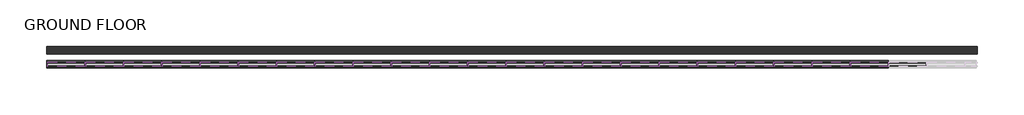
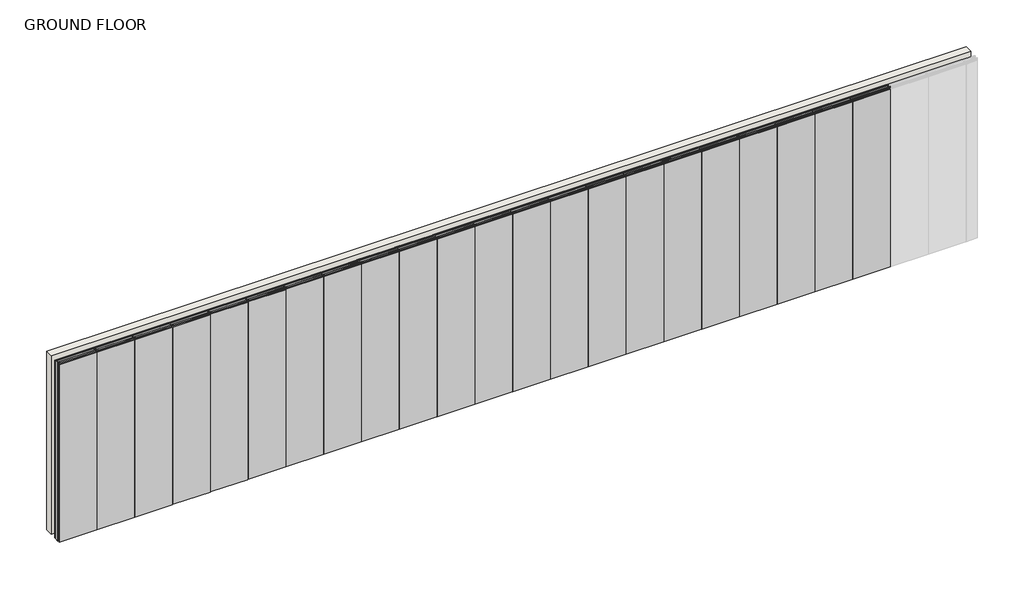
# One storey, part 1 of 2: 68 members, 22 plates, 1 wall.
"""IFC4 building model written with IfcOpenShell, lengths in millimetres."""

from ifc_helpers import new_model, si_unit, origin, origin_with_axes, place, context, project, spatial, polyline, outline, extrude, transform, mapped, element, save
from components import rectangular_mullion_stud_mullion_63mm_af775e70, rectangular_mullion_stud_mullion_63mm_2c4afd4c, rectangular_mullion_stud_mullion_63mm_ab3eab4e, rectangular_mullion_stud_mullion_63mm_08592bac, plate_2_layer_30mm_drywall_panels_124mm_1495f93a

model = new_model("IFC4")

# Units and contexts
model_context = context("Model", 3, world=origin())
ifc_project = project(units=[si_unit("LENGTHUNIT", "METRE", prefix="MILLI")], contexts=[model_context])

# Site, building, storey
site = spatial("IfcSite", under=ifc_project)
building = spatial("IfcBuilding", under=site)
storey = spatial("IfcBuildingStorey", under=building, Name="GROUND FLOOR", Elevation=0.0)

# Members
placement = place(None, origin())
rectangular_mullion_stud_mullion_63mm_shape = rectangular_mullion_stud_mullion_63mm_af775e70(model_context)
element("IfcMember", 1, ObjectType="Rectangular Mullion : Stud Mullion - 63mm", at=placement, inside=storey, context=model_context, shape_type="MappedRepresentation", body=[
    mapped(rectangular_mullion_stud_mullion_63mm_shape, transform((61654.5186508, -49221.4010443, 0.0), x_axis=(0.0, 0.0, -1.0), y_axis=(0.0, -1.0, 0.0), z_axis=(-1.0, 0.0, 0.0))),
])
element("IfcMember", 2, ObjectType="Rectangular Mullion : Stud Mullion - 63mm", at=placement, inside=storey, context=model_context, shape_type="MappedRepresentation", body=[
    mapped(rectangular_mullion_stud_mullion_63mm_shape, transform((62254.5186511, -49221.4010443, 0.0), x_axis=(0.0, 0.0, -1.0), y_axis=(0.0, -1.0, 0.0), z_axis=(-1.0, 0.0, 0.0))),
])
element("IfcMember", 3, ObjectType="Rectangular Mullion : Stud Mullion - 63mm", at=placement, inside=storey, context=model_context, shape_type="MappedRepresentation", body=[
    mapped(rectangular_mullion_stud_mullion_63mm_shape, transform((62854.5186511, -49221.4010443, 0.0), x_axis=(0.0, 0.0, -1.0), y_axis=(0.0, -1.0, 0.0), z_axis=(-1.0, 0.0, 0.0))),
])
element("IfcMember", 4, ObjectType="Rectangular Mullion : Stud Mullion - 63mm", at=placement, inside=storey, context=model_context, shape_type="MappedRepresentation", body=[
    mapped(rectangular_mullion_stud_mullion_63mm_shape, transform((63454.5186511, -49221.4010443, 0.0), x_axis=(0.0, 0.0, -1.0), y_axis=(0.0, -1.0, 0.0), z_axis=(-1.0, 0.0, 0.0))),
])
element("IfcMember", 5, ObjectType="Rectangular Mullion : Stud Mullion - 63mm", at=placement, inside=storey, context=model_context, shape_type="MappedRepresentation", body=[
    mapped(rectangular_mullion_stud_mullion_63mm_shape, transform((64054.5186511, -49221.4010443, 0.0), x_axis=(0.0, 0.0, -1.0), y_axis=(0.0, -1.0, 0.0), z_axis=(-1.0, 0.0, 0.0))),
])
element("IfcMember", 6, ObjectType="Rectangular Mullion : Stud Mullion - 63mm", at=placement, inside=storey, context=model_context, shape_type="MappedRepresentation", body=[
    mapped(rectangular_mullion_stud_mullion_63mm_shape, transform((64654.5186511, -49221.4010443, 0.0), x_axis=(0.0, 0.0, -1.0), y_axis=(0.0, -1.0, 0.0), z_axis=(-1.0, 0.0, 0.0))),
])
element("IfcMember", 7, ObjectType="Rectangular Mullion : Stud Mullion - 63mm", at=placement, inside=storey, context=model_context, shape_type="MappedRepresentation", body=[
    mapped(rectangular_mullion_stud_mullion_63mm_shape, transform((65254.5186511, -49221.4010443, 0.0), x_axis=(0.0, 0.0, -1.0), y_axis=(0.0, -1.0, 0.0), z_axis=(-1.0, 0.0, 0.0))),
])
element("IfcMember", 8, ObjectType="Rectangular Mullion : Stud Mullion - 63mm", at=placement, inside=storey, context=model_context, shape_type="MappedRepresentation", body=[
    mapped(rectangular_mullion_stud_mullion_63mm_shape, transform((65854.5186511, -49221.4010443, 0.0), x_axis=(0.0, 0.0, -1.0), y_axis=(0.0, -1.0, 0.0), z_axis=(-1.0, 0.0, 0.0))),
])
element("IfcMember", 9, ObjectType="Rectangular Mullion : Stud Mullion - 63mm", at=placement, inside=storey, context=model_context, shape_type="MappedRepresentation", body=[
    mapped(rectangular_mullion_stud_mullion_63mm_shape, transform((66454.5186511, -49221.4010443, 0.0), x_axis=(0.0, 0.0, -1.0), y_axis=(0.0, -1.0, 0.0), z_axis=(-1.0, 0.0, 0.0))),
])
element("IfcMember", 10, ObjectType="Rectangular Mullion : Stud Mullion - 63mm", at=placement, inside=storey, context=model_context, shape_type="MappedRepresentation", body=[
    mapped(rectangular_mullion_stud_mullion_63mm_shape, transform((67054.5186511, -49221.4010443, 0.0), x_axis=(0.0, 0.0, -1.0), y_axis=(0.0, -1.0, 0.0), z_axis=(-1.0, 0.0, 0.0))),
])
element("IfcMember", 11, ObjectType="Rectangular Mullion : Stud Mullion - 63mm", at=placement, inside=storey, context=model_context, shape_type="MappedRepresentation", body=[
    mapped(rectangular_mullion_stud_mullion_63mm_shape, transform((67654.5186511, -49221.4010443, 0.0), x_axis=(0.0, 0.0, -1.0), y_axis=(0.0, -1.0, 0.0), z_axis=(-1.0, 0.0, 0.0))),
])
element("IfcMember", 12, ObjectType="Rectangular Mullion : Stud Mullion - 63mm", at=placement, inside=storey, context=model_context, shape_type="MappedRepresentation", body=[
    mapped(rectangular_mullion_stud_mullion_63mm_shape, transform((68254.5186511, -49221.4010443, 0.0), x_axis=(0.0, 0.0, -1.0), y_axis=(0.0, -1.0, 0.0), z_axis=(-1.0, 0.0, 0.0))),
])
element("IfcMember", 13, ObjectType="Rectangular Mullion : Stud Mullion - 63mm", at=placement, inside=storey, context=model_context, shape_type="MappedRepresentation", body=[
    mapped(rectangular_mullion_stud_mullion_63mm_shape, transform((68854.5186511, -49221.4010443, 0.0), x_axis=(0.0, 0.0, -1.0), y_axis=(0.0, -1.0, 0.0), z_axis=(-1.0, 0.0, 0.0))),
])
element("IfcMember", 14, ObjectType="Rectangular Mullion : Stud Mullion - 63mm", at=placement, inside=storey, context=model_context, shape_type="MappedRepresentation", body=[
    mapped(rectangular_mullion_stud_mullion_63mm_shape, transform((69454.5186511, -49221.4010443, 0.0), x_axis=(0.0, 0.0, -1.0), y_axis=(0.0, -1.0, 0.0), z_axis=(-1.0, 0.0, 0.0))),
])
element("IfcMember", 15, ObjectType="Rectangular Mullion : Stud Mullion - 63mm", at=placement, inside=storey, context=model_context, shape_type="MappedRepresentation", body=[
    mapped(rectangular_mullion_stud_mullion_63mm_shape, transform((70054.5186511, -49221.4010443, 0.0), x_axis=(0.0, 0.0, -1.0), y_axis=(0.0, -1.0, 0.0), z_axis=(-1.0, 0.0, 0.0))),
])
element("IfcMember", 16, ObjectType="Rectangular Mullion : Stud Mullion - 63mm", at=placement, inside=storey, context=model_context, shape_type="MappedRepresentation", body=[
    mapped(rectangular_mullion_stud_mullion_63mm_shape, transform((70654.5186511, -49221.4010443, 0.0), x_axis=(0.0, 0.0, -1.0), y_axis=(0.0, -1.0, 0.0), z_axis=(-1.0, 0.0, 0.0))),
])
element("IfcMember", 17, ObjectType="Rectangular Mullion : Stud Mullion - 63mm", at=placement, inside=storey, context=model_context, shape_type="MappedRepresentation", body=[
    mapped(rectangular_mullion_stud_mullion_63mm_shape, transform((71254.5186511, -49221.4010443, 0.0), x_axis=(0.0, 0.0, -1.0), y_axis=(0.0, -1.0, 0.0), z_axis=(-1.0, 0.0, 0.0))),
])
element("IfcMember", 18, ObjectType="Rectangular Mullion : Stud Mullion - 63mm", at=placement, inside=storey, context=model_context, shape_type="MappedRepresentation", body=[
    mapped(rectangular_mullion_stud_mullion_63mm_shape, transform((71854.5186511, -49221.4010443, 0.0), x_axis=(0.0, 0.0, -1.0), y_axis=(0.0, -1.0, 0.0), z_axis=(-1.0, 0.0, 0.0))),
])
element("IfcMember", 19, ObjectType="Rectangular Mullion : Stud Mullion - 63mm", at=placement, inside=storey, context=model_context, shape_type="MappedRepresentation", body=[
    mapped(rectangular_mullion_stud_mullion_63mm_shape, transform((72454.5186511, -49221.4010443, 0.0), x_axis=(0.0, 0.0, -1.0), y_axis=(0.0, -1.0, 0.0), z_axis=(-1.0, 0.0, 0.0))),
])
element("IfcMember", 20, ObjectType="Rectangular Mullion : Stud Mullion - 63mm", at=placement, inside=storey, context=model_context, shape_type="MappedRepresentation", body=[
    mapped(rectangular_mullion_stud_mullion_63mm_shape, transform((73054.5186511, -49221.4010443, 0.0), x_axis=(0.0, 0.0, -1.0), y_axis=(0.0, -1.0, 0.0), z_axis=(-1.0, 0.0, 0.0))),
])
element("IfcMember", 21, ObjectType="Rectangular Mullion : Stud Mullion - 63mm", at=placement, inside=storey, context=model_context, shape_type="MappedRepresentation", body=[
    mapped(rectangular_mullion_stud_mullion_63mm_shape, transform((73654.5186511, -49221.4010443, 0.0), x_axis=(0.0, 0.0, -1.0), y_axis=(0.0, -1.0, 0.0), z_axis=(-1.0, 0.0, 0.0))),
])
element("IfcMember", 22, ObjectType="Rectangular Mullion : Stud Mullion - 63mm", at=placement, inside=storey, context=model_context, shape_type="MappedRepresentation", body=[
    mapped(rectangular_mullion_stud_mullion_63mm_shape, transform((74254.5186511, -49221.4010443, 0.0), x_axis=(0.0, 0.0, -1.0), y_axis=(0.0, -1.0, 0.0), z_axis=(-1.0, 0.0, 0.0))),
])
element("IfcMember", 23, ObjectType="Rectangular Mullion : Stud Mullion - 63mm", at=placement, inside=storey, context=model_context, shape_type="MappedRepresentation", body=[
    mapped(rectangular_mullion_stud_mullion_63mm_shape, transform((74854.5186511, -49221.4010443, 0.0), x_axis=(0.0, 0.0, -1.0), y_axis=(0.0, -1.0, 0.0), z_axis=(-1.0, 0.0, 0.0))),
])
rectangular_mullion_stud_mullion_63mm_2_shape = rectangular_mullion_stud_mullion_63mm_2c4afd4c(model_context)
element("IfcMember", 24, ObjectType="Rectangular Mullion : Stud Mullion - 63mm", at=placement, inside=storey, context=model_context, shape_type="MappedRepresentation", body=[
    mapped(rectangular_mullion_stud_mullion_63mm_2_shape, transform((61635.5186508, -49221.4010443, 3000.0), x_axis=(-1.0, 0.0, 0.0), y_axis=(0.0, -1.0, 0.0), z_axis=(0.0, 0.0, 1.0))),
])
rectangular_mullion_stud_mullion_63mm_3_shape = rectangular_mullion_stud_mullion_63mm_ab3eab4e(model_context)
element("IfcMember", 25, ObjectType="Rectangular Mullion : Stud Mullion - 63mm", at=placement, inside=storey, context=model_context, shape_type="MappedRepresentation", body=[
    mapped(rectangular_mullion_stud_mullion_63mm_3_shape, transform((62235.5186511, -49221.4010443, 3000.0), x_axis=(0.0, 0.0, 1.0), y_axis=(0.0, -1.0, 0.0), z_axis=(1.0, 0.0, 0.0))),
])
element("IfcMember", 26, ObjectType="Rectangular Mullion : Stud Mullion - 63mm", at=placement, inside=storey, context=model_context, shape_type="MappedRepresentation", body=[
    mapped(rectangular_mullion_stud_mullion_63mm_3_shape, transform((62835.5186511, -49221.4010443, 3000.0), x_axis=(0.0, 0.0, 1.0), y_axis=(0.0, -1.0, 0.0), z_axis=(1.0, 0.0, 0.0))),
])
element("IfcMember", 27, ObjectType="Rectangular Mullion : Stud Mullion - 63mm", at=placement, inside=storey, context=model_context, shape_type="MappedRepresentation", body=[
    mapped(rectangular_mullion_stud_mullion_63mm_3_shape, transform((63435.5186511, -49221.4010443, 3000.0), x_axis=(0.0, 0.0, 1.0), y_axis=(0.0, -1.0, 0.0), z_axis=(1.0, 0.0, 0.0))),
])
element("IfcMember", 28, ObjectType="Rectangular Mullion : Stud Mullion - 63mm", at=placement, inside=storey, context=model_context, shape_type="MappedRepresentation", body=[
    mapped(rectangular_mullion_stud_mullion_63mm_3_shape, transform((64035.5186511, -49221.4010443, 3000.0), x_axis=(0.0, 0.0, 1.0), y_axis=(0.0, -1.0, 0.0), z_axis=(1.0, 0.0, 0.0))),
])
element("IfcMember", 29, ObjectType="Rectangular Mullion : Stud Mullion - 63mm", at=placement, inside=storey, context=model_context, shape_type="MappedRepresentation", body=[
    mapped(rectangular_mullion_stud_mullion_63mm_3_shape, transform((64635.5186511, -49221.4010443, 3000.0), x_axis=(0.0, 0.0, 1.0), y_axis=(0.0, -1.0, 0.0), z_axis=(1.0, 0.0, 0.0))),
])
element("IfcMember", 30, ObjectType="Rectangular Mullion : Stud Mullion - 63mm", at=placement, inside=storey, context=model_context, shape_type="MappedRepresentation", body=[
    mapped(rectangular_mullion_stud_mullion_63mm_3_shape, transform((65235.5186511, -49221.4010443, 3000.0), x_axis=(0.0, 0.0, 1.0), y_axis=(0.0, -1.0, 0.0), z_axis=(1.0, 0.0, 0.0))),
])
element("IfcMember", 31, ObjectType="Rectangular Mullion : Stud Mullion - 63mm", at=placement, inside=storey, context=model_context, shape_type="MappedRepresentation", body=[
    mapped(rectangular_mullion_stud_mullion_63mm_3_shape, transform((65835.5186511, -49221.4010443, 3000.0), x_axis=(0.0, 0.0, 1.0), y_axis=(0.0, -1.0, 0.0), z_axis=(1.0, 0.0, 0.0))),
])
element("IfcMember", 32, ObjectType="Rectangular Mullion : Stud Mullion - 63mm", at=placement, inside=storey, context=model_context, shape_type="MappedRepresentation", body=[
    mapped(rectangular_mullion_stud_mullion_63mm_3_shape, transform((66435.5186511, -49221.4010443, 3000.0), x_axis=(0.0, 0.0, 1.0), y_axis=(0.0, -1.0, 0.0), z_axis=(1.0, 0.0, 0.0))),
])
element("IfcMember", 33, ObjectType="Rectangular Mullion : Stud Mullion - 63mm", at=placement, inside=storey, context=model_context, shape_type="MappedRepresentation", body=[
    mapped(rectangular_mullion_stud_mullion_63mm_3_shape, transform((67035.5186511, -49221.4010443, 3000.0), x_axis=(0.0, 0.0, 1.0), y_axis=(0.0, -1.0, 0.0), z_axis=(1.0, 0.0, 0.0))),
])
element("IfcMember", 34, ObjectType="Rectangular Mullion : Stud Mullion - 63mm", at=placement, inside=storey, context=model_context, shape_type="MappedRepresentation", body=[
    mapped(rectangular_mullion_stud_mullion_63mm_3_shape, transform((67635.5186511, -49221.4010443, 3000.0), x_axis=(0.0, 0.0, 1.0), y_axis=(0.0, -1.0, 0.0), z_axis=(1.0, 0.0, 0.0))),
])
element("IfcMember", 35, ObjectType="Rectangular Mullion : Stud Mullion - 63mm", at=placement, inside=storey, context=model_context, shape_type="MappedRepresentation", body=[
    mapped(rectangular_mullion_stud_mullion_63mm_3_shape, transform((68235.5186511, -49221.4010443, 3000.0), x_axis=(0.0, 0.0, 1.0), y_axis=(0.0, -1.0, 0.0), z_axis=(1.0, 0.0, 0.0))),
])
element("IfcMember", 36, ObjectType="Rectangular Mullion : Stud Mullion - 63mm", at=placement, inside=storey, context=model_context, shape_type="MappedRepresentation", body=[
    mapped(rectangular_mullion_stud_mullion_63mm_3_shape, transform((68835.5186511, -49221.4010443, 3000.0), x_axis=(0.0, 0.0, 1.0), y_axis=(0.0, -1.0, 0.0), z_axis=(1.0, 0.0, 0.0))),
])
element("IfcMember", 37, ObjectType="Rectangular Mullion : Stud Mullion - 63mm", at=placement, inside=storey, context=model_context, shape_type="MappedRepresentation", body=[
    mapped(rectangular_mullion_stud_mullion_63mm_3_shape, transform((69435.5186511, -49221.4010443, 3000.0), x_axis=(0.0, 0.0, 1.0), y_axis=(0.0, -1.0, 0.0), z_axis=(1.0, 0.0, 0.0))),
])
element("IfcMember", 38, ObjectType="Rectangular Mullion : Stud Mullion - 63mm", at=placement, inside=storey, context=model_context, shape_type="MappedRepresentation", body=[
    mapped(rectangular_mullion_stud_mullion_63mm_3_shape, transform((70035.5186511, -49221.4010443, 3000.0), x_axis=(0.0, 0.0, 1.0), y_axis=(0.0, -1.0, 0.0), z_axis=(1.0, 0.0, 0.0))),
])
element("IfcMember", 39, ObjectType="Rectangular Mullion : Stud Mullion - 63mm", at=placement, inside=storey, context=model_context, shape_type="MappedRepresentation", body=[
    mapped(rectangular_mullion_stud_mullion_63mm_3_shape, transform((70635.5186511, -49221.4010443, 3000.0), x_axis=(0.0, 0.0, 1.0), y_axis=(0.0, -1.0, 0.0), z_axis=(1.0, 0.0, 0.0))),
])
element("IfcMember", 40, ObjectType="Rectangular Mullion : Stud Mullion - 63mm", at=placement, inside=storey, context=model_context, shape_type="MappedRepresentation", body=[
    mapped(rectangular_mullion_stud_mullion_63mm_3_shape, transform((71235.5186511, -49221.4010443, 3000.0), x_axis=(0.0, 0.0, 1.0), y_axis=(0.0, -1.0, 0.0), z_axis=(1.0, 0.0, 0.0))),
])
element("IfcMember", 41, ObjectType="Rectangular Mullion : Stud Mullion - 63mm", at=placement, inside=storey, context=model_context, shape_type="MappedRepresentation", body=[
    mapped(rectangular_mullion_stud_mullion_63mm_3_shape, transform((71835.5186511, -49221.4010443, 3000.0), x_axis=(0.0, 0.0, 1.0), y_axis=(0.0, -1.0, 0.0), z_axis=(1.0, 0.0, 0.0))),
])
element("IfcMember", 42, ObjectType="Rectangular Mullion : Stud Mullion - 63mm", at=placement, inside=storey, context=model_context, shape_type="MappedRepresentation", body=[
    mapped(rectangular_mullion_stud_mullion_63mm_3_shape, transform((72435.5186511, -49221.4010443, 3000.0), x_axis=(0.0, 0.0, 1.0), y_axis=(0.0, -1.0, 0.0), z_axis=(1.0, 0.0, 0.0))),
])
element("IfcMember", 43, ObjectType="Rectangular Mullion : Stud Mullion - 63mm", at=placement, inside=storey, context=model_context, shape_type="MappedRepresentation", body=[
    mapped(rectangular_mullion_stud_mullion_63mm_3_shape, transform((73035.5186511, -49221.4010443, 3000.0), x_axis=(0.0, 0.0, 1.0), y_axis=(0.0, -1.0, 0.0), z_axis=(1.0, 0.0, 0.0))),
])
element("IfcMember", 44, ObjectType="Rectangular Mullion : Stud Mullion - 63mm", at=placement, inside=storey, context=model_context, shape_type="MappedRepresentation", body=[
    mapped(rectangular_mullion_stud_mullion_63mm_3_shape, transform((73635.5186511, -49221.4010443, 3000.0), x_axis=(0.0, 0.0, 1.0), y_axis=(0.0, -1.0, 0.0), z_axis=(1.0, 0.0, 0.0))),
])
element("IfcMember", 45, ObjectType="Rectangular Mullion : Stud Mullion - 63mm", at=placement, inside=storey, context=model_context, shape_type="MappedRepresentation", body=[
    mapped(rectangular_mullion_stud_mullion_63mm_3_shape, transform((74235.5186511, -49221.4010443, 3000.0), x_axis=(0.0, 0.0, 1.0), y_axis=(0.0, -1.0, 0.0), z_axis=(1.0, 0.0, 0.0))),
])
element("IfcMember", 46, ObjectType="Rectangular Mullion : Stud Mullion - 63mm", at=placement, inside=storey, context=model_context, shape_type="MappedRepresentation", body=[
    mapped(rectangular_mullion_stud_mullion_63mm_3_shape, transform((74835.5186511, -49221.4010443, 3000.0), x_axis=(0.0, 0.0, 1.0), y_axis=(0.0, -1.0, 0.0), z_axis=(1.0, 0.0, 0.0))),
])
rectangular_mullion_stud_mullion_63mm_4_shape = rectangular_mullion_stud_mullion_63mm_08592bac(model_context)
element("IfcMember", 47, ObjectType="Rectangular Mullion : Stud Mullion - 63mm", at=placement, inside=storey, context=model_context, shape_type="MappedRepresentation", body=[
    mapped(rectangular_mullion_stud_mullion_63mm_4_shape, transform((62245.0186511, -49221.4010443, 0.0), x_axis=(1.0, 0.0, 0.0), y_axis=(0.0, -1.0, 0.0), z_axis=(0.0, 0.0, -1.0))),
])
element("IfcMember", 48, ObjectType="Rectangular Mullion : Stud Mullion - 63mm", at=placement, inside=storey, context=model_context, shape_type="MappedRepresentation", body=[
    mapped(rectangular_mullion_stud_mullion_63mm_4_shape, transform((62845.0186511, -49221.4010443, 0.0), x_axis=(1.0, 0.0, 0.0), y_axis=(0.0, -1.0, 0.0), z_axis=(0.0, 0.0, -1.0))),
])
element("IfcMember", 49, ObjectType="Rectangular Mullion : Stud Mullion - 63mm", at=placement, inside=storey, context=model_context, shape_type="MappedRepresentation", body=[
    mapped(rectangular_mullion_stud_mullion_63mm_4_shape, transform((63445.0186511, -49221.4010443, 0.0), x_axis=(1.0, 0.0, 0.0), y_axis=(0.0, -1.0, 0.0), z_axis=(0.0, 0.0, -1.0))),
])
element("IfcMember", 50, ObjectType="Rectangular Mullion : Stud Mullion - 63mm", at=placement, inside=storey, context=model_context, shape_type="MappedRepresentation", body=[
    mapped(rectangular_mullion_stud_mullion_63mm_4_shape, transform((64045.0186511, -49221.4010443, 0.0), x_axis=(1.0, 0.0, 0.0), y_axis=(0.0, -1.0, 0.0), z_axis=(0.0, 0.0, -1.0))),
])
element("IfcMember", 51, ObjectType="Rectangular Mullion : Stud Mullion - 63mm", at=placement, inside=storey, context=model_context, shape_type="MappedRepresentation", body=[
    mapped(rectangular_mullion_stud_mullion_63mm_4_shape, transform((64645.0186511, -49221.4010443, 0.0), x_axis=(1.0, 0.0, 0.0), y_axis=(0.0, -1.0, 0.0), z_axis=(0.0, 0.0, -1.0))),
])
element("IfcMember", 52, ObjectType="Rectangular Mullion : Stud Mullion - 63mm", at=placement, inside=storey, context=model_context, shape_type="MappedRepresentation", body=[
    mapped(rectangular_mullion_stud_mullion_63mm_4_shape, transform((65245.0186511, -49221.4010443, 0.0), x_axis=(1.0, 0.0, 0.0), y_axis=(0.0, -1.0, 0.0), z_axis=(0.0, 0.0, -1.0))),
])
element("IfcMember", 53, ObjectType="Rectangular Mullion : Stud Mullion - 63mm", at=placement, inside=storey, context=model_context, shape_type="MappedRepresentation", body=[
    mapped(rectangular_mullion_stud_mullion_63mm_4_shape, transform((65845.0186511, -49221.4010443, 0.0), x_axis=(1.0, 0.0, 0.0), y_axis=(0.0, -1.0, 0.0), z_axis=(0.0, 0.0, -1.0))),
])
element("IfcMember", 54, ObjectType="Rectangular Mullion : Stud Mullion - 63mm", at=placement, inside=storey, context=model_context, shape_type="MappedRepresentation", body=[
    mapped(rectangular_mullion_stud_mullion_63mm_4_shape, transform((66445.0186511, -49221.4010443, 0.0), x_axis=(1.0, 0.0, 0.0), y_axis=(0.0, -1.0, 0.0), z_axis=(0.0, 0.0, -1.0))),
])
element("IfcMember", 55, ObjectType="Rectangular Mullion : Stud Mullion - 63mm", at=placement, inside=storey, context=model_context, shape_type="MappedRepresentation", body=[
    mapped(rectangular_mullion_stud_mullion_63mm_4_shape, transform((67045.0186511, -49221.4010443, 0.0), x_axis=(1.0, 0.0, 0.0), y_axis=(0.0, -1.0, 0.0), z_axis=(0.0, 0.0, -1.0))),
])
element("IfcMember", 56, ObjectType="Rectangular Mullion : Stud Mullion - 63mm", at=placement, inside=storey, context=model_context, shape_type="MappedRepresentation", body=[
    mapped(rectangular_mullion_stud_mullion_63mm_4_shape, transform((67645.0186511, -49221.4010443, 0.0), x_axis=(1.0, 0.0, 0.0), y_axis=(0.0, -1.0, 0.0), z_axis=(0.0, 0.0, -1.0))),
])
element("IfcMember", 57, ObjectType="Rectangular Mullion : Stud Mullion - 63mm", at=placement, inside=storey, context=model_context, shape_type="MappedRepresentation", body=[
    mapped(rectangular_mullion_stud_mullion_63mm_4_shape, transform((68245.0186511, -49221.4010443, 0.0), x_axis=(1.0, 0.0, 0.0), y_axis=(0.0, -1.0, 0.0), z_axis=(0.0, 0.0, -1.0))),
])
element("IfcMember", 58, ObjectType="Rectangular Mullion : Stud Mullion - 63mm", at=placement, inside=storey, context=model_context, shape_type="MappedRepresentation", body=[
    mapped(rectangular_mullion_stud_mullion_63mm_4_shape, transform((68845.0186511, -49221.4010443, 0.0), x_axis=(1.0, 0.0, 0.0), y_axis=(0.0, -1.0, 0.0), z_axis=(0.0, 0.0, -1.0))),
])
element("IfcMember", 59, ObjectType="Rectangular Mullion : Stud Mullion - 63mm", at=placement, inside=storey, context=model_context, shape_type="MappedRepresentation", body=[
    mapped(rectangular_mullion_stud_mullion_63mm_4_shape, transform((69445.0186511, -49221.4010443, 0.0), x_axis=(1.0, 0.0, 0.0), y_axis=(0.0, -1.0, 0.0), z_axis=(0.0, 0.0, -1.0))),
])
element("IfcMember", 60, ObjectType="Rectangular Mullion : Stud Mullion - 63mm", at=placement, inside=storey, context=model_context, shape_type="MappedRepresentation", body=[
    mapped(rectangular_mullion_stud_mullion_63mm_4_shape, transform((70045.0186511, -49221.4010443, 0.0), x_axis=(1.0, 0.0, 0.0), y_axis=(0.0, -1.0, 0.0), z_axis=(0.0, 0.0, -1.0))),
])
element("IfcMember", 61, ObjectType="Rectangular Mullion : Stud Mullion - 63mm", at=placement, inside=storey, context=model_context, shape_type="MappedRepresentation", body=[
    mapped(rectangular_mullion_stud_mullion_63mm_4_shape, transform((70645.0186511, -49221.4010443, 0.0), x_axis=(1.0, 0.0, 0.0), y_axis=(0.0, -1.0, 0.0), z_axis=(0.0, 0.0, -1.0))),
])
element("IfcMember", 62, ObjectType="Rectangular Mullion : Stud Mullion - 63mm", at=placement, inside=storey, context=model_context, shape_type="MappedRepresentation", body=[
    mapped(rectangular_mullion_stud_mullion_63mm_4_shape, transform((71245.0186511, -49221.4010443, 0.0), x_axis=(1.0, 0.0, 0.0), y_axis=(0.0, -1.0, 0.0), z_axis=(0.0, 0.0, -1.0))),
])
element("IfcMember", 63, ObjectType="Rectangular Mullion : Stud Mullion - 63mm", at=placement, inside=storey, context=model_context, shape_type="MappedRepresentation", body=[
    mapped(rectangular_mullion_stud_mullion_63mm_4_shape, transform((71845.0186511, -49221.4010443, 0.0), x_axis=(1.0, 0.0, 0.0), y_axis=(0.0, -1.0, 0.0), z_axis=(0.0, 0.0, -1.0))),
])
element("IfcMember", 64, ObjectType="Rectangular Mullion : Stud Mullion - 63mm", at=placement, inside=storey, context=model_context, shape_type="MappedRepresentation", body=[
    mapped(rectangular_mullion_stud_mullion_63mm_4_shape, transform((72445.0186511, -49221.4010443, 0.0), x_axis=(1.0, 0.0, 0.0), y_axis=(0.0, -1.0, 0.0), z_axis=(0.0, 0.0, -1.0))),
])
element("IfcMember", 65, ObjectType="Rectangular Mullion : Stud Mullion - 63mm", at=placement, inside=storey, context=model_context, shape_type="MappedRepresentation", body=[
    mapped(rectangular_mullion_stud_mullion_63mm_4_shape, transform((73045.0186511, -49221.4010443, 0.0), x_axis=(1.0, 0.0, 0.0), y_axis=(0.0, -1.0, 0.0), z_axis=(0.0, 0.0, -1.0))),
])
element("IfcMember", 66, ObjectType="Rectangular Mullion : Stud Mullion - 63mm", at=placement, inside=storey, context=model_context, shape_type="MappedRepresentation", body=[
    mapped(rectangular_mullion_stud_mullion_63mm_4_shape, transform((73645.0186511, -49221.4010443, 0.0), x_axis=(1.0, 0.0, 0.0), y_axis=(0.0, -1.0, 0.0), z_axis=(0.0, 0.0, -1.0))),
])
element("IfcMember", 67, ObjectType="Rectangular Mullion : Stud Mullion - 63mm", at=placement, inside=storey, context=model_context, shape_type="MappedRepresentation", body=[
    mapped(rectangular_mullion_stud_mullion_63mm_4_shape, transform((74245.0186511, -49221.4010443, 0.0), x_axis=(1.0, 0.0, 0.0), y_axis=(0.0, -1.0, 0.0), z_axis=(0.0, 0.0, -1.0))),
])
element("IfcMember", 68, ObjectType="Rectangular Mullion : Stud Mullion - 63mm", at=placement, inside=storey, context=model_context, shape_type="MappedRepresentation", body=[
    mapped(rectangular_mullion_stud_mullion_63mm_4_shape, transform((74845.0186511, -49221.4010443, 0.0), x_axis=(1.0, 0.0, 0.0), y_axis=(0.0, -1.0, 0.0), z_axis=(0.0, 0.0, -1.0))),
])

# Plates
plate_2_layer_30mm_drywall_panels_124mm_shape = plate_2_layer_30mm_drywall_panels_124mm_1495f93a(model_context)
element("IfcPlate", 69, ObjectType="4 LayerS - Drywall Panels : 2 Layer - 30mm Drywall Panels 124mm", at=placement, inside=storey, context=model_context, shape_type="MappedRepresentation", body=[
    mapped(plate_2_layer_30mm_drywall_panels_124mm_shape, transform((61936.318651, -49221.4010443, 1.6), x_axis=(1.0, 0.0, 0.0), y_axis=(0.0, 1.0, 0.0), z_axis=(0.0, 0.0, 1.0))),
])
element("IfcPlate", 70, ObjectType="4 LayerS - Drywall Panels : 2 Layer - 30mm Drywall Panels 124mm", at=placement, inside=storey, context=model_context, shape_type="MappedRepresentation", body=[
    mapped(plate_2_layer_30mm_drywall_panels_124mm_shape, transform((62536.3186511, -49221.4010443, 1.6), x_axis=(1.0, 0.0, 0.0), y_axis=(0.0, 1.0, 0.0), z_axis=(0.0, 0.0, 1.0))),
])
element("IfcPlate", 71, ObjectType="4 LayerS - Drywall Panels : 2 Layer - 30mm Drywall Panels 124mm", at=placement, inside=storey, context=model_context, shape_type="MappedRepresentation", body=[
    mapped(plate_2_layer_30mm_drywall_panels_124mm_shape, transform((63136.3186511, -49221.4010443, 1.6), x_axis=(1.0, 0.0, 0.0), y_axis=(0.0, 1.0, 0.0), z_axis=(0.0, 0.0, 1.0))),
])
element("IfcPlate", 72, ObjectType="4 LayerS - Drywall Panels : 2 Layer - 30mm Drywall Panels 124mm", at=placement, inside=storey, context=model_context, shape_type="MappedRepresentation", body=[
    mapped(plate_2_layer_30mm_drywall_panels_124mm_shape, transform((63736.3186511, -49221.4010443, 1.6), x_axis=(1.0, 0.0, 0.0), y_axis=(0.0, 1.0, 0.0), z_axis=(0.0, 0.0, 1.0))),
])
element("IfcPlate", 73, ObjectType="4 LayerS - Drywall Panels : 2 Layer - 30mm Drywall Panels 124mm", at=placement, inside=storey, context=model_context, shape_type="MappedRepresentation", body=[
    mapped(plate_2_layer_30mm_drywall_panels_124mm_shape, transform((64336.3186511, -49221.4010443, 1.6), x_axis=(1.0, 0.0, 0.0), y_axis=(0.0, 1.0, 0.0), z_axis=(0.0, 0.0, 1.0))),
])
element("IfcPlate", 74, ObjectType="4 LayerS - Drywall Panels : 2 Layer - 30mm Drywall Panels 124mm", at=placement, inside=storey, context=model_context, shape_type="MappedRepresentation", body=[
    mapped(plate_2_layer_30mm_drywall_panels_124mm_shape, transform((64936.3186511, -49221.4010443, 1.6), x_axis=(1.0, 0.0, 0.0), y_axis=(0.0, 1.0, 0.0), z_axis=(0.0, 0.0, 1.0))),
])
element("IfcPlate", 75, ObjectType="4 LayerS - Drywall Panels : 2 Layer - 30mm Drywall Panels 124mm", at=placement, inside=storey, context=model_context, shape_type="MappedRepresentation", body=[
    mapped(plate_2_layer_30mm_drywall_panels_124mm_shape, transform((65536.3186511, -49221.4010443, 1.6), x_axis=(1.0, 0.0, 0.0), y_axis=(0.0, 1.0, 0.0), z_axis=(0.0, 0.0, 1.0))),
])
element("IfcPlate", 76, ObjectType="4 LayerS - Drywall Panels : 2 Layer - 30mm Drywall Panels 124mm", at=placement, inside=storey, context=model_context, shape_type="MappedRepresentation", body=[
    mapped(plate_2_layer_30mm_drywall_panels_124mm_shape, transform((66136.3186511, -49221.4010443, 1.6), x_axis=(1.0, 0.0, 0.0), y_axis=(0.0, 1.0, 0.0), z_axis=(0.0, 0.0, 1.0))),
])
element("IfcPlate", 77, ObjectType="4 LayerS - Drywall Panels : 2 Layer - 30mm Drywall Panels 124mm", at=placement, inside=storey, context=model_context, shape_type="MappedRepresentation", body=[
    mapped(plate_2_layer_30mm_drywall_panels_124mm_shape, transform((66736.3186511, -49221.4010443, 1.6), x_axis=(1.0, 0.0, 0.0), y_axis=(0.0, 1.0, 0.0), z_axis=(0.0, 0.0, 1.0))),
])
element("IfcPlate", 78, ObjectType="4 LayerS - Drywall Panels : 2 Layer - 30mm Drywall Panels 124mm", at=placement, inside=storey, context=model_context, shape_type="MappedRepresentation", body=[
    mapped(plate_2_layer_30mm_drywall_panels_124mm_shape, transform((67336.3186511, -49221.4010443, 1.6), x_axis=(1.0, 0.0, 0.0), y_axis=(0.0, 1.0, 0.0), z_axis=(0.0, 0.0, 1.0))),
])
element("IfcPlate", 79, ObjectType="4 LayerS - Drywall Panels : 2 Layer - 30mm Drywall Panels 124mm", at=placement, inside=storey, context=model_context, shape_type="MappedRepresentation", body=[
    mapped(plate_2_layer_30mm_drywall_panels_124mm_shape, transform((67936.3186511, -49221.4010443, 1.6), x_axis=(1.0, 0.0, 0.0), y_axis=(0.0, 1.0, 0.0), z_axis=(0.0, 0.0, 1.0))),
])
element("IfcPlate", 80, ObjectType="4 LayerS - Drywall Panels : 2 Layer - 30mm Drywall Panels 124mm", at=placement, inside=storey, context=model_context, shape_type="MappedRepresentation", body=[
    mapped(plate_2_layer_30mm_drywall_panels_124mm_shape, transform((68536.3186511, -49221.4010443, 1.6), x_axis=(1.0, 0.0, 0.0), y_axis=(0.0, 1.0, 0.0), z_axis=(0.0, 0.0, 1.0))),
])
element("IfcPlate", 81, ObjectType="4 LayerS - Drywall Panels : 2 Layer - 30mm Drywall Panels 124mm", at=placement, inside=storey, context=model_context, shape_type="MappedRepresentation", body=[
    mapped(plate_2_layer_30mm_drywall_panels_124mm_shape, transform((69136.3186511, -49221.4010443, 1.6), x_axis=(1.0, 0.0, 0.0), y_axis=(0.0, 1.0, 0.0), z_axis=(0.0, 0.0, 1.0))),
])
element("IfcPlate", 82, ObjectType="4 LayerS - Drywall Panels : 2 Layer - 30mm Drywall Panels 124mm", at=placement, inside=storey, context=model_context, shape_type="MappedRepresentation", body=[
    mapped(plate_2_layer_30mm_drywall_panels_124mm_shape, transform((69736.3186511, -49221.4010443, 1.6), x_axis=(1.0, 0.0, 0.0), y_axis=(0.0, 1.0, 0.0), z_axis=(0.0, 0.0, 1.0))),
])
element("IfcPlate", 83, ObjectType="4 LayerS - Drywall Panels : 2 Layer - 30mm Drywall Panels 124mm", at=placement, inside=storey, context=model_context, shape_type="MappedRepresentation", body=[
    mapped(plate_2_layer_30mm_drywall_panels_124mm_shape, transform((70336.3186511, -49221.4010443, 1.6), x_axis=(1.0, 0.0, 0.0), y_axis=(0.0, 1.0, 0.0), z_axis=(0.0, 0.0, 1.0))),
])
element("IfcPlate", 84, ObjectType="4 LayerS - Drywall Panels : 2 Layer - 30mm Drywall Panels 124mm", at=placement, inside=storey, context=model_context, shape_type="MappedRepresentation", body=[
    mapped(plate_2_layer_30mm_drywall_panels_124mm_shape, transform((70936.3186511, -49221.4010443, 1.6), x_axis=(1.0, 0.0, 0.0), y_axis=(0.0, 1.0, 0.0), z_axis=(0.0, 0.0, 1.0))),
])
element("IfcPlate", 85, ObjectType="4 LayerS - Drywall Panels : 2 Layer - 30mm Drywall Panels 124mm", at=placement, inside=storey, context=model_context, shape_type="MappedRepresentation", body=[
    mapped(plate_2_layer_30mm_drywall_panels_124mm_shape, transform((71536.3186511, -49221.4010443, 1.6), x_axis=(1.0, 0.0, 0.0), y_axis=(0.0, 1.0, 0.0), z_axis=(0.0, 0.0, 1.0))),
])
element("IfcPlate", 86, ObjectType="4 LayerS - Drywall Panels : 2 Layer - 30mm Drywall Panels 124mm", at=placement, inside=storey, context=model_context, shape_type="MappedRepresentation", body=[
    mapped(plate_2_layer_30mm_drywall_panels_124mm_shape, transform((72136.3186511, -49221.4010443, 1.6), x_axis=(1.0, 0.0, 0.0), y_axis=(0.0, 1.0, 0.0), z_axis=(0.0, 0.0, 1.0))),
])
element("IfcPlate", 87, ObjectType="4 LayerS - Drywall Panels : 2 Layer - 30mm Drywall Panels 124mm", at=placement, inside=storey, context=model_context, shape_type="MappedRepresentation", body=[
    mapped(plate_2_layer_30mm_drywall_panels_124mm_shape, transform((72736.3186511, -49221.4010443, 1.6), x_axis=(1.0, 0.0, 0.0), y_axis=(0.0, 1.0, 0.0), z_axis=(0.0, 0.0, 1.0))),
])
element("IfcPlate", 88, ObjectType="4 LayerS - Drywall Panels : 2 Layer - 30mm Drywall Panels 124mm", at=placement, inside=storey, context=model_context, shape_type="MappedRepresentation", body=[
    mapped(plate_2_layer_30mm_drywall_panels_124mm_shape, transform((73336.3186511, -49221.4010443, 1.6), x_axis=(1.0, 0.0, 0.0), y_axis=(0.0, 1.0, 0.0), z_axis=(0.0, 0.0, 1.0))),
])
element("IfcPlate", 89, ObjectType="4 LayerS - Drywall Panels : 2 Layer - 30mm Drywall Panels 124mm", at=placement, inside=storey, context=model_context, shape_type="MappedRepresentation", body=[
    mapped(plate_2_layer_30mm_drywall_panels_124mm_shape, transform((73936.3186511, -49221.4010443, 1.6), x_axis=(1.0, 0.0, 0.0), y_axis=(0.0, 1.0, 0.0), z_axis=(0.0, 0.0, 1.0))),
])
element("IfcPlate", 90, ObjectType="4 LayerS - Drywall Panels : 2 Layer - 30mm Drywall Panels 124mm", at=placement, inside=storey, context=model_context, shape_type="MappedRepresentation", body=[
    mapped(plate_2_layer_30mm_drywall_panels_124mm_shape, transform((74536.3186511, -49221.4010443, 1.6), x_axis=(1.0, 0.0, 0.0), y_axis=(0.0, 1.0, 0.0), z_axis=(0.0, 0.0, 1.0))),
])

# Wall
element("IfcWall", 91, ObjectType="PW10 - JUMBO AcousticWALL 63/120/S50", at=placement, inside=storey, context=model_context, shape_type="SweptSolid", body=[
    extrude(outline(polyline([(76235.5186508, -49063.4010443), (61635.5186508, -49063.4010443), (61635.5186508, -48939.4010443), (76235.5186508, -48939.4010443), (76235.5186508, -49063.4010443)])), origin_with_axes(), (0.0, 0.0, 1.0), 3000.0),
])

save(model, "model.ifc")
